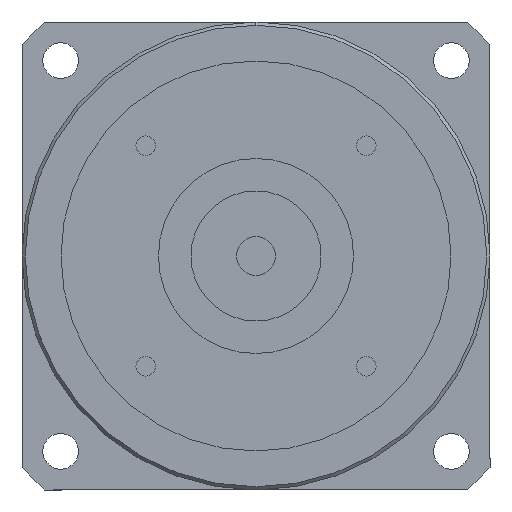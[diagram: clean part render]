
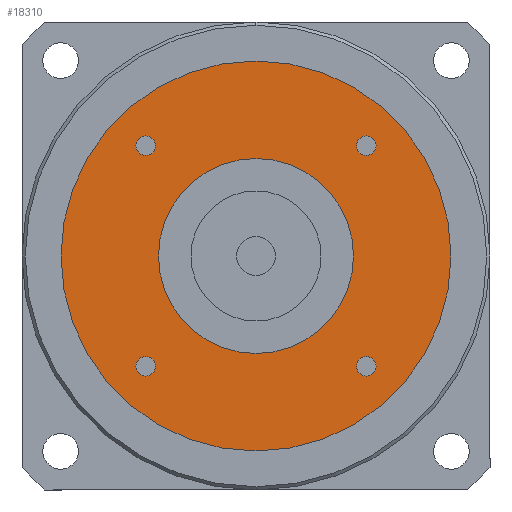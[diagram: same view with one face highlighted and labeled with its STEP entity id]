
A CAD part, left-side view. The second image highlights one B-rep face of the part: STEP entity #18310.
In plain terms, the highlighted planar face has unit normal (-1, 0, 0) as drawn and (0, 0, -1) by its records, which use the part's own axes.
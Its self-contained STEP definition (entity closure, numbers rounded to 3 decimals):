
#15130=CARTESIAN_POINT('',(15.471,16.971,-92.));
#15140=VERTEX_POINT('',#15130);
#15320=CARTESIAN_POINT('',(18.471,16.971,-92.));
#15330=VERTEX_POINT('',#15320);
#15360=CARTESIAN_POINT('',(16.971,16.971,-92.));
#15370=DIRECTION('',(0.,0.,-1.));
#15380=DIRECTION('',(0.,1.,0.));
#15390=AXIS2_PLACEMENT_3D('',#15360,#15370,#15380);
#15400=CIRCLE('',#15390,1.5);
#15410=CARTESIAN_POINT('',(16.971,18.471,-92.));
#15420=VERTEX_POINT('',#15410);
#15430=EDGE_CURVE('',#15420,#15330,#15400,.T.);
#15450=EDGE_CURVE('',#15140,#15420,#15400,.T.);
#15590=CARTESIAN_POINT('',(-16.971,15.471,-92.));
#15600=VERTEX_POINT('',#15590);
#15780=CARTESIAN_POINT('',(-16.971,18.471,-92.));
#15790=VERTEX_POINT('',#15780);
#15820=CARTESIAN_POINT('',(-16.971,16.971,-92.));
#15830=DIRECTION('',(0.,0.,-1.));
#15840=DIRECTION('',(-1.,0.,0.));
#15850=AXIS2_PLACEMENT_3D('',#15820,#15830,#15840);
#15860=CIRCLE('',#15850,1.5);
#15870=CARTESIAN_POINT('',(-18.471,16.971,-92.));
#15880=VERTEX_POINT('',#15870);
#15890=EDGE_CURVE('',#15880,#15790,#15860,.T.);
#15910=EDGE_CURVE('',#15600,#15880,#15860,.T.);
#17240=CARTESIAN_POINT('',(30.,0.,-92.));
#17250=VERTEX_POINT('',#17240);
#17280=CARTESIAN_POINT('',(0.,0.,
-92.));
#17290=DIRECTION('',(0.,0.,1.));
#17300=DIRECTION('',(0.,-1.,0.));
#17310=AXIS2_PLACEMENT_3D('',#17280,#17290,#17300);
#17320=CIRCLE('',#17310,30.);
#17330=CARTESIAN_POINT('',(0.,-30.,-92.));
#17340=VERTEX_POINT('',#17330);
#17350=EDGE_CURVE('',#17340,#17250,#17320,.T.);
#17370=CARTESIAN_POINT('',(-30.,0.,-92.));
#17380=VERTEX_POINT('',#17370);
#17390=EDGE_CURVE('',#17380,#17340,#17320,.T.);
#17510=CARTESIAN_POINT('',(0.,0.,
-92.));
#17520=DIRECTION('',(0.,0.,1.));
#17530=DIRECTION('',(-1.,0.,0.));
#17540=AXIS2_PLACEMENT_3D('',#17510,#17520,#17530);
#17550=PLANE('',#17540);
#17560=CARTESIAN_POINT('',(-16.971,-16.971,-92.));
#17570=DIRECTION('',(0.,0.,-1.));
#17580=DIRECTION('',(0.,-1.,0.));
#17590=AXIS2_PLACEMENT_3D('',#17560,#17570,#17580);
#17600=CIRCLE('',#17590,1.5);
#17610=CARTESIAN_POINT('',(-16.971,-18.471,-92.));
#17620=VERTEX_POINT('',#17610);
#17630=CARTESIAN_POINT('',(-18.471,-16.971,-92.));
#17640=VERTEX_POINT('',#17630);
#17650=EDGE_CURVE('',#17620,#17640,#17600,.T.);
#17660=ORIENTED_EDGE('',*,*,#17650,.F.);
#17670=CARTESIAN_POINT('',(-15.471,-16.971,-92.));
#17680=VERTEX_POINT('',#17670);
#17690=EDGE_CURVE('',#17640,#17680,#17600,.T.);
#17700=ORIENTED_EDGE('',*,*,#17690,.F.);
#17710=EDGE_CURVE('',#17680,#17620,#17600,.T.);
#17720=ORIENTED_EDGE('',*,*,#17710,.F.);
#17730=EDGE_LOOP('',(#17720,#17700,#17660));
#17740=FACE_BOUND('',#17730,.T.);
#17750=CARTESIAN_POINT('',(0.,0.,
-92.));
#17760=DIRECTION('',(0.,0.,1.));
#17770=DIRECTION('',(0.,-1.,0.));
#17780=AXIS2_PLACEMENT_3D('',#17750,#17760,#17770);
#17790=CIRCLE('',#17780,15.);
#17800=CARTESIAN_POINT('',(15.,0.,-92.));
#17810=VERTEX_POINT('',#17800);
#17820=CARTESIAN_POINT('',(-15.,0.,-92.));
#17830=VERTEX_POINT('',#17820);
#17840=EDGE_CURVE('',#17810,#17830,#17790,.T.);
#17850=ORIENTED_EDGE('',*,*,#17840,.T.);
#17860=CARTESIAN_POINT('',(0.,-15.,-92.));
#17870=VERTEX_POINT('',#17860);
#17880=EDGE_CURVE('',#17870,#17810,#17790,.T.);
#17890=ORIENTED_EDGE('',*,*,#17880,.T.);
#17900=EDGE_CURVE('',#17830,#17870,#17790,.T.);
#17910=ORIENTED_EDGE('',*,*,#17900,.T.);
#17920=EDGE_LOOP('',(#17910,#17890,#17850));
#17930=FACE_BOUND('',#17920,.T.);
#17940=CARTESIAN_POINT('',(16.971,-16.971,-92.));
#17950=DIRECTION('',(0.,0.,-1.));
#17960=DIRECTION('',(1.,0.,0.));
#17970=AXIS2_PLACEMENT_3D('',#17940,#17950,#17960);
#17980=CIRCLE('',#17970,1.5);
#17990=CARTESIAN_POINT('',(18.471,-16.971,-92.));
#18000=VERTEX_POINT('',#17990);
#18010=CARTESIAN_POINT('',(16.971,-18.471,-92.));
#18020=VERTEX_POINT('',#18010);
#18030=EDGE_CURVE('',#18000,#18020,#17980,.T.);
#18040=ORIENTED_EDGE('',*,*,#18030,.F.);
#18050=CARTESIAN_POINT('',(16.971,-15.471,-92.));
#18060=VERTEX_POINT('',#18050);
#18070=EDGE_CURVE('',#18020,#18060,#17980,.T.);
#18080=ORIENTED_EDGE('',*,*,#18070,.F.);
#18090=EDGE_CURVE('',#18060,#18000,#17980,.T.);
#18100=ORIENTED_EDGE('',*,*,#18090,.F.);
#18110=EDGE_LOOP('',(#18100,#18080,#18040));
#18120=FACE_BOUND('',#18110,.T.);
#18130=ORIENTED_EDGE('',*,*,#15430,.F.);
#18140=EDGE_CURVE('',#15330,#15140,#15400,.T.);
#18150=ORIENTED_EDGE('',*,*,#18140,.F.);
#18160=ORIENTED_EDGE('',*,*,#15450,.F.);
#18170=EDGE_LOOP('',(#18160,#18150,#18130));
#18180=FACE_BOUND('',#18170,.T.);
#18190=ORIENTED_EDGE('',*,*,#15890,.F.);
#18200=EDGE_CURVE('',#15790,#15600,#15860,.T.);
#18210=ORIENTED_EDGE('',*,*,#18200,.F.);
#18220=ORIENTED_EDGE('',*,*,#15910,.F.);
#18230=EDGE_LOOP('',(#18220,#18210,#18190));
#18240=FACE_BOUND('',#18230,.T.);
#18250=ORIENTED_EDGE('',*,*,#17350,.F.);
#18260=EDGE_CURVE('',#17250,#17380,#17320,.T.);
#18270=ORIENTED_EDGE('',*,*,#18260,.F.);
#18280=ORIENTED_EDGE('',*,*,#17390,.F.);
#18290=EDGE_LOOP('',(#18280,#18270,#18250));
#18300=FACE_OUTER_BOUND('',#18290,.T.);
#18310=ADVANCED_FACE('',(#17740,#17930,#18120,#18180,#18240,#18300),
#17550,.F.);
